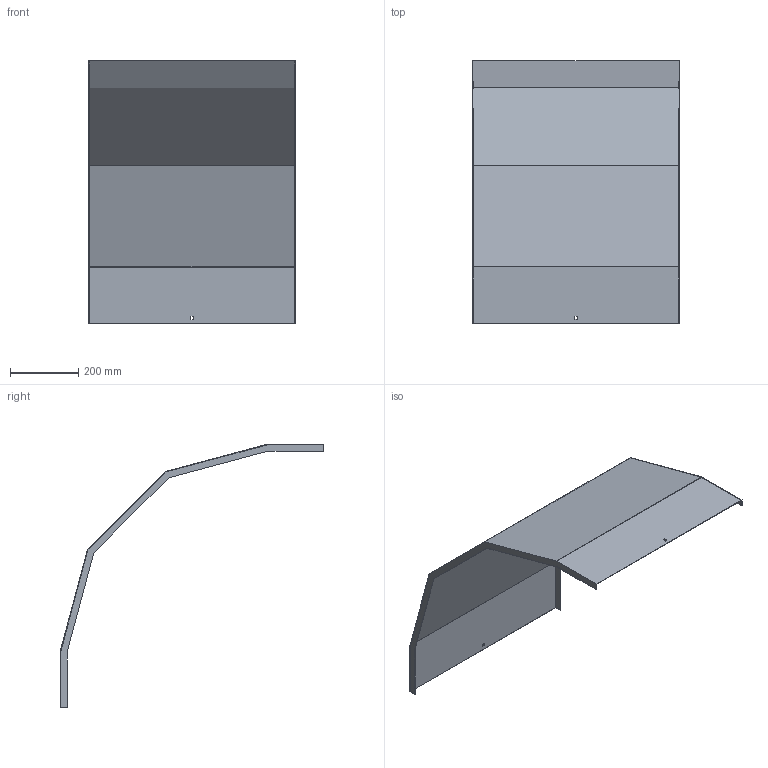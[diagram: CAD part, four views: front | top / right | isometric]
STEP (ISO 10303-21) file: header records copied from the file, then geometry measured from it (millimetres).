
FILE_DESCRIPTION (( 'STEP AP214' ), '1' );
FILE_NAME ('33N5D600.step', '2025-02-21T10:43:28', ( '' ), ( '' ), 'SwSTEP 2.0', 'SolidWorks 2023', '' );
FILE_SCHEMA (( 'AUTOMOTIVE_DESIGN' ));
Length unit declared in the file: millimetre
Products named in the file (1): 33N5D600
Bounding box: 603 x 769.82 x 769.82 mm (x, y, z)
Volume: 1215035.9 mm3; surface area: 1625772.5 mm2
Topology: 1 solids, 1 shells, 34 faces, 96 edges, 64 vertices
Faces by surface type: plane 34
Entity records: 1111 total; most frequent: CARTESIAN_POINT 195, ORIENTED_EDGE 192, DIRECTION 166, EDGE_CURVE 96, VECTOR 96, LINE 96, VERTEX_POINT 64, EDGE_LOOP 38
